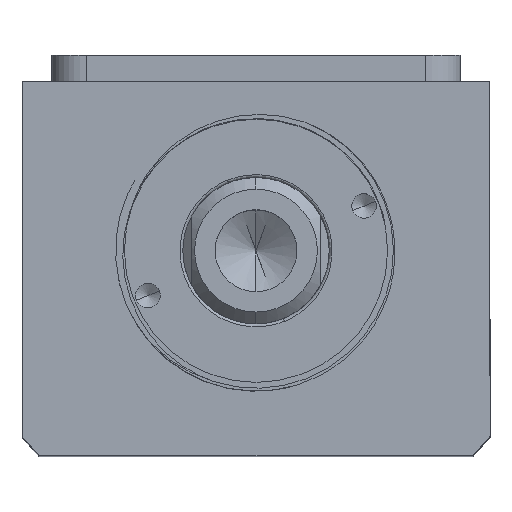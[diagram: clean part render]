
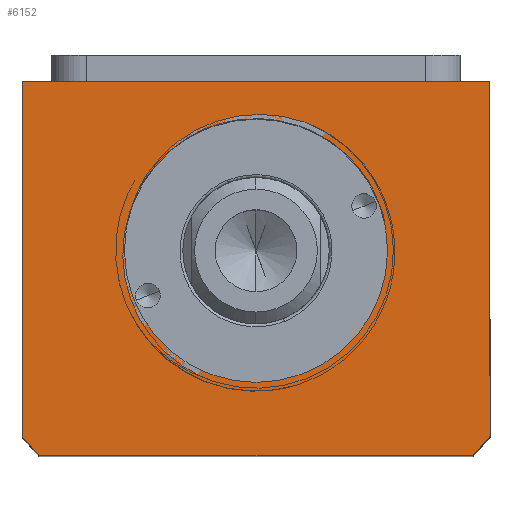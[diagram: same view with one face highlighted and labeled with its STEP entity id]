
A CAD part, top view. The second image highlights one B-rep face of the part: STEP entity #6152.
In plain terms, the highlighted planar face has unit normal (0, 0, 1).
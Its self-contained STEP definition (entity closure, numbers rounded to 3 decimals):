
#77 = DIRECTION ( 'NONE',  ( 1., 0., 0. ) ) ;
#119 = ORIENTED_EDGE ( 'NONE', *, *, #804, .T. ) ;
#132 = ORIENTED_EDGE ( 'NONE', *, *, #1689, .F. ) ;
#236 = AXIS2_PLACEMENT_3D ( 'NONE', #7485, #2684, #8377 ) ;
#417 = EDGE_LOOP ( 'NONE', ( #119, #5107, #2568, #4714, #6118, #6376 ) ) ;
#560 = VECTOR ( 'NONE', #77, 1000. ) ;
#679 = CARTESIAN_POINT ( 'NONE',  ( 0., -40.507, 130. ) ) ;
#717 = CARTESIAN_POINT ( 'NONE',  ( 40., -11.507, 130. ) ) ;
#763 = DIRECTION ( 'NONE',  ( 1., 0., 0. ) ) ;
#804 = EDGE_CURVE ( 'NONE', #5073, #1918, #7750, .T. ) ;
#1171 = ORIENTED_EDGE ( 'NONE', *, *, #10021, .F. ) ;
#1324 = VECTOR ( 'NONE', #7964, 1000. ) ;
#1378 = CARTESIAN_POINT ( 'NONE',  ( -40., -72.145, 130. ) ) ;
#1528 = DIRECTION ( 'NONE',  ( 1., 0., 0. ) ) ;
#1689 = EDGE_CURVE ( 'NONE', #5781, #5004, #6089, .T. ) ;
#1721 = AXIS2_PLACEMENT_3D ( 'NONE', #10530, #5649, #763 ) ;
#1771 = CARTESIAN_POINT ( 'NONE',  ( 40., -72.145, 130. ) ) ;
#1806 = AXIS2_PLACEMENT_3D ( 'NONE', #679, #6390, #1528 ) ;
#1918 = VERTEX_POINT ( 'NONE', #1378 ) ;
#1991 = VERTEX_POINT ( 'NONE', #7243 ) ;
#2568 = ORIENTED_EDGE ( 'NONE', *, *, #10195, .T. ) ;
#2684 = DIRECTION ( 'NONE',  ( 0., 0., 1. ) ) ;
#2705 = DIRECTION ( 'NONE',  ( 0., 1., 0. ) ) ;
#3017 = CARTESIAN_POINT ( 'NONE',  ( 22.5, -40.507, 130. ) ) ;
#3208 = DIRECTION ( 'NONE',  ( 0., 0., 1. ) ) ;
#3595 = CIRCLE ( 'NONE', #1806, 22.5 ) ;
#3606 = CIRCLE ( 'NONE', #1721, 51. ) ;
#3640 = DIRECTION ( 'NONE',  ( 0., 0., 1. ) ) ;
#4064 = DIRECTION ( 'NONE',  ( 0., -1., 0. ) ) ;
#4261 = VECTOR ( 'NONE', #2705, 1000. ) ;
#4503 = EDGE_LOOP ( 'NONE', ( #132, #1171 ) ) ;
#4546 = CARTESIAN_POINT ( 'NONE',  ( -40., -11.507, 130. ) ) ;
#4714 = ORIENTED_EDGE ( 'NONE', *, *, #8963, .T. ) ;
#4749 = EDGE_CURVE ( 'NONE', #8431, #10079, #6419, .T. ) ;
#4957 = CARTESIAN_POINT ( 'NONE',  ( -40., -75.507, 130. ) ) ;
#5004 = VERTEX_POINT ( 'NONE', #8310 ) ;
#5050 = AXIS2_PLACEMENT_3D ( 'NONE', #8070, #3208, #8881 ) ;
#5073 = VERTEX_POINT ( 'NONE', #5194 ) ;
#5107 = ORIENTED_EDGE ( 'NONE', *, *, #10064, .T. ) ;
#5126 = FACE_OUTER_BOUND ( 'NONE', #417, .T. ) ;
#5141 = EDGE_CURVE ( 'NONE', #10079, #5073, #9218, .T. ) ;
#5194 = CARTESIAN_POINT ( 'NONE',  ( -40., -11.507, 130. ) ) ;
#5585 = VECTOR ( 'NONE', #4064, 1000. ) ;
#5649 = DIRECTION ( 'NONE',  ( 0., 0., 1. ) ) ;
#5781 = VERTEX_POINT ( 'NONE', #3017 ) ;
#6089 = CIRCLE ( 'NONE', #7199, 22.5 ) ;
#6118 = ORIENTED_EDGE ( 'NONE', *, *, #4749, .T. ) ;
#6152 = ADVANCED_FACE ( 'NONE', ( #7566, #5126 ), #7557, .T. ) ;
#6315 = CARTESIAN_POINT ( 'NONE',  ( -40., -11.507, 130. ) ) ;
#6376 = ORIENTED_EDGE ( 'NONE', *, *, #5141, .T. ) ;
#6390 = DIRECTION ( 'NONE',  ( 0., 0., 1. ) ) ;
#6419 = LINE ( 'NONE', #10413, #4261 ) ;
#6743 = CARTESIAN_POINT ( 'NONE',  ( -37.094, -75.507, 130. ) ) ;
#7075 = LINE ( 'NONE', #4957, #560 ) ;
#7199 = AXIS2_PLACEMENT_3D ( 'NONE', #8504, #3640, #9304 ) ;
#7243 = CARTESIAN_POINT ( 'NONE',  ( 37.094, -75.507, 130. ) ) ;
#7330 = CIRCLE ( 'NONE', #5050, 51. ) ;
#7485 = CARTESIAN_POINT ( 'NONE',  ( 0., 0., 130. ) ) ;
#7557 = PLANE ( 'NONE',  #236 ) ;
#7566 = FACE_BOUND ( 'NONE', #4503, .T. ) ;
#7750 = LINE ( 'NONE', #4546, #5585 ) ;
#7947 = VERTEX_POINT ( 'NONE', #6743 ) ;
#7964 = DIRECTION ( 'NONE',  ( -1., 0., 0. ) ) ;
#8070 = CARTESIAN_POINT ( 'NONE',  ( 0., -40.507, 130. ) ) ;
#8310 = CARTESIAN_POINT ( 'NONE',  ( -22.5, -40.507, 130. ) ) ;
#8377 = DIRECTION ( 'NONE',  ( 1., 0., 0. ) ) ;
#8431 = VERTEX_POINT ( 'NONE', #1771 ) ;
#8504 = CARTESIAN_POINT ( 'NONE',  ( 0., -40.507, 130. ) ) ;
#8881 = DIRECTION ( 'NONE',  ( 1., 0., 0. ) ) ;
#8963 = EDGE_CURVE ( 'NONE', #1991, #8431, #3606, .T. ) ;
#9218 = LINE ( 'NONE', #6315, #1324 ) ;
#9304 = DIRECTION ( 'NONE',  ( 1., 0., 0. ) ) ;
#10021 = EDGE_CURVE ( 'NONE', #5004, #5781, #3595, .T. ) ;
#10064 = EDGE_CURVE ( 'NONE', #1918, #7947, #7330, .T. ) ;
#10079 = VERTEX_POINT ( 'NONE', #717 ) ;
#10195 = EDGE_CURVE ( 'NONE', #7947, #1991, #7075, .T. ) ;
#10413 = CARTESIAN_POINT ( 'NONE',  ( 40., -11.507, 130. ) ) ;
#10530 = CARTESIAN_POINT ( 'NONE',  ( 0., -40.507, 130. ) ) ;
